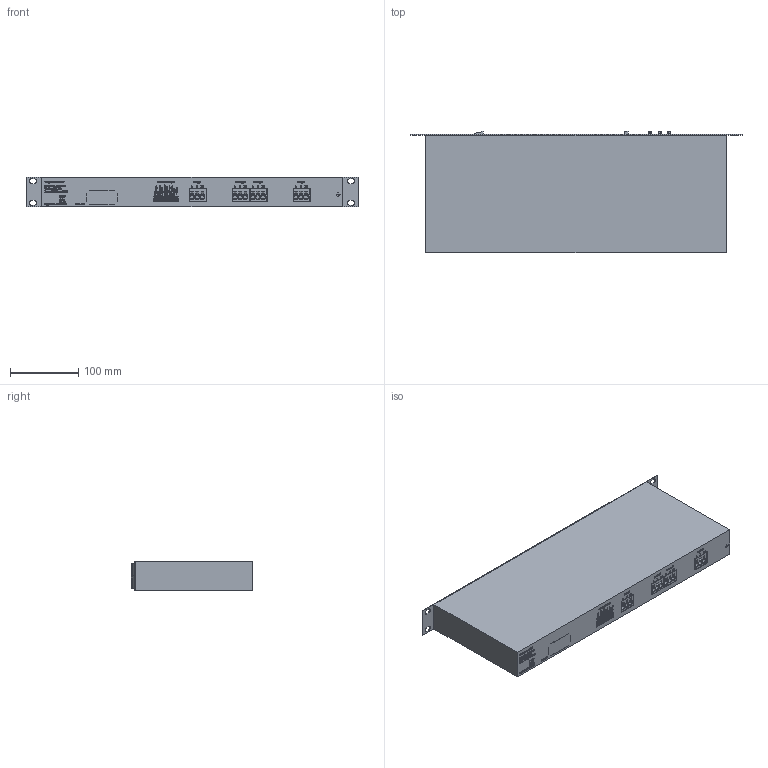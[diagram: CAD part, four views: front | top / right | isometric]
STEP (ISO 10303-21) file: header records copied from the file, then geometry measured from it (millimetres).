
FILE_DESCRIPTION(('STEP AP214'), '1');
FILE_NAME('1 ÓÒÐË.656119.027 Óñòðîéñòâî Àâòîìàòè÷åñêîãî ââîäà ðåçåðâà ATS-1201(P)', '', ('UNSPECIFIED'), ('UNSPECIFIED'), 'ASCON STEP Converter 1.6', 'ASCON Math Kernel', '');
FILE_SCHEMA(('AUTOMOTIVE_DESIGN { 1 0 10303 214 3 1 1}'));
Length unit declared in the file: millimetre
Products named in the file (12): 衵倓.656119.027; 8.001.021; 8.001.022; 8.158.180; ATS1201; 砐蠈薧鴅懤襝_鎕錒翴澼鍣_矐譇膷歑黓蠂膰嶱10縗餩0.15鎗_CA9MV10-10KA2020; 襄疱觌囹咫黖MADE_IN_CHINA; pxc_1719202_04_SPT-5-3-H-7-5-ZB_3D; ECH350R-10P
Assembly tree (25 placements, depth 2):
  衵倓.656119.027
    (unnamed)  x6
    8.001.021
    8.001.022
    (unnamed)  x2
    8.158.180
    ATS1201
    (unnamed)
    砐蠈薧鴅懤襝_鎕錒翴澼鍣_矐譇膷歑黓蠂膰嶱10縗餩0.15鎗_CA9MV10-10KA2020  x6
    襄疱觌囹咫黖MADE_IN_CHINA
    pxc_1719202_04_SPT-5-3-H-7-5-ZB_3D  x4
    ECH350R-10P
Bounding box: 486 x 177.74 x 43.9 mm (x, y, z)
Volume: 3540181.6 mm3; surface area: 346782.8 mm2
Topology: 467 solids, 467 shells, 9961 faces, 26373 edges, 17524 vertices
Faces by surface type: plane 5931, extrusion 3475, cylinder 515, cone 38, bspline 2
Full cylindrical faces by diameter (mm): 0.457 x4, 2 x12, 2.2 x10, 2.7 x6, 3 x2, 3.4 x2, 3.95 x6, 4.4 x6, 5 x6, 5.5 x6
Entity records: 344473 total; most frequent: CARTESIAN_POINT 79591, ORIENTED_EDGE 44074, DIRECTION 28512, EDGE_CURVE 22037, VECTOR 18098, VERTEX_POINT 14663, LINE 14623, B_SPLINE_CURVE_WITH_KNOTS 10524
